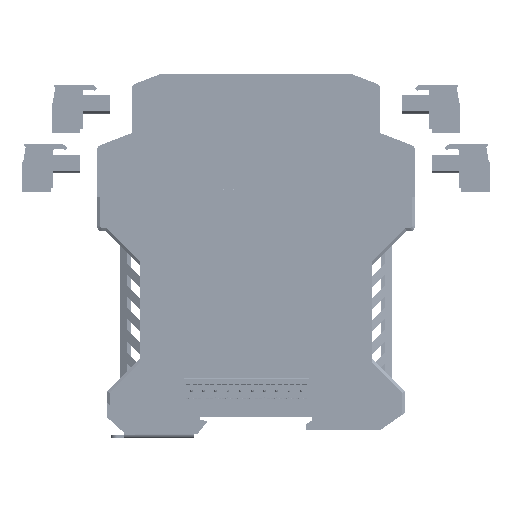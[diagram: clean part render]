
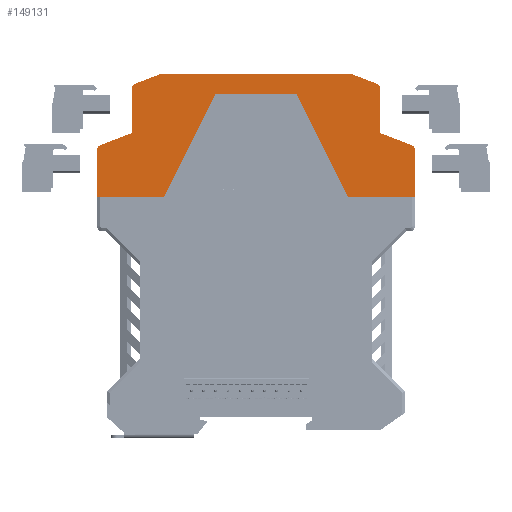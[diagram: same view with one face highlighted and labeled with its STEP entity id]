
A CAD part, left-side view. The second image highlights one B-rep face of the part: STEP entity #149131.
In plain terms, the highlighted planar face has unit normal (-1, 0, 0) as drawn and (0, 0, -1) by its records, which use the part's own axes.
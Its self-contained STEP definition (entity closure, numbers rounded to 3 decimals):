
#149131=ADVANCED_FACE('',(#271147),#271149,.T.);
#271147=FACE_BOUND('',#271148,.T.);
#271148=EDGE_LOOP('',(#369441,#369442,#369443,#369444,#369445,#369446,#369447,#369448,
#369449,#369450,#369451,#369452,#369453,#369454,#369455,#369456,#369457,#369458));
#271149=PLANE('',#271150);
#271150=AXIS2_PLACEMENT_3D('',#271151,#271152,#271153);
#271151=CARTESIAN_POINT('',(-26.857,93.967,-18.8));
#271152=DIRECTION('',(0.,0.,-1.));
#271153=DIRECTION('',(-1.,0.,0.));
#369441=ORIENTED_EDGE('',*,*,#419111,.T.);
#369442=ORIENTED_EDGE('',*,*,#418947,.T.);
#369443=ORIENTED_EDGE('',*,*,#419119,.T.);
#369444=ORIENTED_EDGE('',*,*,#419007,.F.);
#369445=ORIENTED_EDGE('',*,*,#419108,.F.);
#369446=ORIENTED_EDGE('',*,*,#418853,.F.);
#369447=ORIENTED_EDGE('',*,*,#418806,.T.);
#369448=ORIENTED_EDGE('',*,*,#418874,.T.);
#369449=ORIENTED_EDGE('',*,*,#419053,.F.);
#369450=ORIENTED_EDGE('',*,*,#419028,.T.);
#369451=ORIENTED_EDGE('',*,*,#418638,.F.);
#369452=ORIENTED_EDGE('',*,*,#419120,.F.);
#369453=ORIENTED_EDGE('',*,*,#418349,.F.);
#369454=ORIENTED_EDGE('',*,*,#418659,.F.);
#369455=ORIENTED_EDGE('',*,*,#418865,.T.);
#369456=ORIENTED_EDGE('',*,*,#418730,.F.);
#369457=ORIENTED_EDGE('',*,*,#419091,.F.);
#369458=ORIENTED_EDGE('',*,*,#419064,.T.);
#418349=EDGE_CURVE('',#496784,#496786,#496787,.T.);
#418638=EDGE_CURVE('',#497305,#497307,#497308,.T.);
#418659=EDGE_CURVE('',#497338,#496784,#497340,.T.);
#418730=EDGE_CURVE('',#497457,#497458,#497459,.T.);
#418806=EDGE_CURVE('',#497576,#497581,#497583,.T.);
#418853=EDGE_CURVE('',#497576,#497659,#497660,.T.);
#418865=EDGE_CURVE('',#497338,#497458,#497681,.T.);
#418874=EDGE_CURVE('',#497581,#497691,#497693,.T.);
#418947=EDGE_CURVE('',#497805,#497806,#497807,.T.);
#419007=EDGE_CURVE('',#497897,#497898,#497899,.T.);
#419028=EDGE_CURVE('',#497929,#497307,#497930,.T.);
#419053=EDGE_CURVE('',#497929,#497691,#497966,.T.);
#419064=EDGE_CURVE('',#497980,#497981,#497982,.T.);
#419091=EDGE_CURVE('',#497980,#497457,#498015,.T.);
#419108=EDGE_CURVE('',#497659,#497897,#498037,.T.);
#419111=EDGE_CURVE('',#497981,#497805,#498041,.T.);
#419119=EDGE_CURVE('',#497806,#497898,#498049,.T.);
#419120=EDGE_CURVE('',#496786,#497305,#498050,.T.);
#496784=VERTEX_POINT('',#683849);
#496786=VERTEX_POINT('',#683853);
#496787=LINE('',#683854,#683855);
#497305=VERTEX_POINT('',#684968);
#497307=VERTEX_POINT('',#684972);
#497308=LINE('',#684973,#684974);
#497338=VERTEX_POINT('',#685043);
#497340=LINE('',#685047,#685048);
#497457=VERTEX_POINT('',#685306);
#497458=VERTEX_POINT('',#685307);
#497459=CIRCLE('',#685308,1.5);
#497576=VERTEX_POINT('',#685573);
#497581=VERTEX_POINT('',#685582);
#497583=LINE('',#685586,#685587);
#497659=VERTEX_POINT('',#685756);
#497660=LINE('',#685757,#685758);
#497681=LINE('',#685802,#685803);
#497691=VERTEX_POINT('',#685829);
#497693=CIRCLE('',#685833,1.5);
#497805=VERTEX_POINT('',#686096);
#497806=VERTEX_POINT('',#686097);
#497807=LINE('',#686098,#686099);
#497897=VERTEX_POINT('',#686309);
#497898=VERTEX_POINT('',#686310);
#497899=LINE('',#686311,#686312);
#497929=VERTEX_POINT('',#686383);
#497930=LINE('',#686384,#686385);
#497966=LINE('',#686470,#686471);
#497980=VERTEX_POINT('',#686506);
#497981=VERTEX_POINT('',#686507);
#497982=LINE('',#686508,#686509);
#498015=LINE('',#686596,#686597);
#498037=CIRCLE('',#686653,1.5);
#498041=CIRCLE('',#686664,1.5);
#498049=LINE('',#686690,#686691);
#498050=LINE('',#686693,#686694);
#683849=CARTESIAN_POINT('',(-28.75,76.5,-18.8));
#683853=CARTESIAN_POINT('',(-12.7,108.7,-18.8));
#683854=CARTESIAN_POINT('',(-28.75,76.5,-18.8));
#683855=VECTOR('',#683856,1.);
#683856=DIRECTION('',(0.446,0.895,0.));
#684968=CARTESIAN_POINT('',(12.7,108.7,-18.8));
#684972=CARTESIAN_POINT('',(28.75,76.5,-18.8));
#684973=CARTESIAN_POINT('',(12.7,108.7,-18.8));
#684974=VECTOR('',#684975,1.);
#684975=DIRECTION('',(0.446,-0.895,0.));
#685043=CARTESIAN_POINT('',(-49.5,76.5,-18.8));
#685047=CARTESIAN_POINT('',(-49.5,76.5,-18.8));
#685048=VECTOR('',#685049,1.);
#685049=DIRECTION('',(1.,0.,0.));
#685306=CARTESIAN_POINT('',(-48.537,92.769,-18.8));
#685307=CARTESIAN_POINT('',(-49.5,91.368,-18.8));
#685308=AXIS2_PLACEMENT_3D('',#685309,#685310,#685311);
#685309=CARTESIAN_POINT('',(-48.,91.368,-18.8));
#685310=DIRECTION('',(0.,0.,1.));
#685311=DIRECTION('',(-0.358,0.934,0.));
#685573=CARTESIAN_POINT('',(38.8,96.5,-18.8));
#685582=CARTESIAN_POINT('',(48.537,92.769,-18.8));
#685586=CARTESIAN_POINT('',(38.8,96.5,-18.8));
#685587=VECTOR('',#685588,1.);
#685588=DIRECTION('',(0.934,-0.358,0.));
#685756=CARTESIAN_POINT('',(38.8,110.438,-18.8));
#685757=CARTESIAN_POINT('',(38.8,96.5,-18.8));
#685758=VECTOR('',#685759,1.);
#685759=DIRECTION('',(0.,1.,0.));
#685802=CARTESIAN_POINT('',(-49.5,76.5,-18.8));
#685803=VECTOR('',#685804,1.);
#685804=DIRECTION('',(0.,1.,0.));
#685829=CARTESIAN_POINT('',(49.5,91.368,-18.8));
#685833=AXIS2_PLACEMENT_3D('',#685834,#685835,#685836);
#685834=CARTESIAN_POINT('',(48.,91.368,-18.8));
#685835=DIRECTION('',(0.,0.,-1.));
#685836=DIRECTION('',(0.358,0.934,0.));
#686096=CARTESIAN_POINT('',(-37.838,111.838,-18.8));
#686097=CARTESIAN_POINT('',(-29.6,115.,-18.8));
#686098=CARTESIAN_POINT('',(-37.838,111.838,-18.8));
#686099=VECTOR('',#686100,1.);
#686100=DIRECTION('',(0.934,0.358,0.));
#686309=CARTESIAN_POINT('',(37.838,111.838,-18.8));
#686310=CARTESIAN_POINT('',(29.6,115.,-18.8));
#686311=CARTESIAN_POINT('',(37.838,111.838,-18.8));
#686312=VECTOR('',#686313,1.);
#686313=DIRECTION('',(-0.934,0.358,0.));
#686383=CARTESIAN_POINT('',(49.5,76.5,-18.8));
#686384=CARTESIAN_POINT('',(49.5,76.5,-18.8));
#686385=VECTOR('',#686386,1.);
#686386=DIRECTION('',(-1.,0.,0.));
#686470=CARTESIAN_POINT('',(49.5,76.5,-18.8));
#686471=VECTOR('',#686472,1.);
#686472=DIRECTION('',(0.,1.,0.));
#686506=CARTESIAN_POINT('',(-38.8,96.5,-18.8));
#686507=CARTESIAN_POINT('',(-38.8,110.438,-18.8));
#686508=CARTESIAN_POINT('',(-38.8,96.5,-18.8));
#686509=VECTOR('',#686510,1.);
#686510=DIRECTION('',(0.,1.,0.));
#686596=CARTESIAN_POINT('',(-38.8,96.5,-18.8));
#686597=VECTOR('',#686598,1.);
#686598=DIRECTION('',(-0.934,-0.358,0.));
#686653=AXIS2_PLACEMENT_3D('',#686654,#686655,#686656);
#686654=CARTESIAN_POINT('',(37.3,110.438,-18.8));
#686655=DIRECTION('',(0.,-0.,1.));
#686656=DIRECTION('',(1.,0.,0.));
#686664=AXIS2_PLACEMENT_3D('',#686665,#686666,#686667);
#686665=CARTESIAN_POINT('',(-37.3,110.438,-18.8));
#686666=DIRECTION('',(0.,0.,-1.));
#686667=DIRECTION('',(-1.,0.,0.));
#686690=CARTESIAN_POINT('',(-29.6,115.,-18.8));
#686691=VECTOR('',#686692,1.);
#686692=DIRECTION('',(1.,0.,0.));
#686693=CARTESIAN_POINT('',(-12.7,108.7,-18.8));
#686694=VECTOR('',#686695,1.);
#686695=DIRECTION('',(1.,0.,0.));
